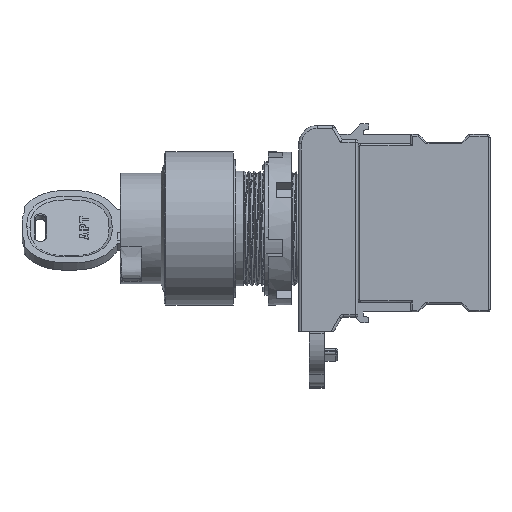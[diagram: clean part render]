
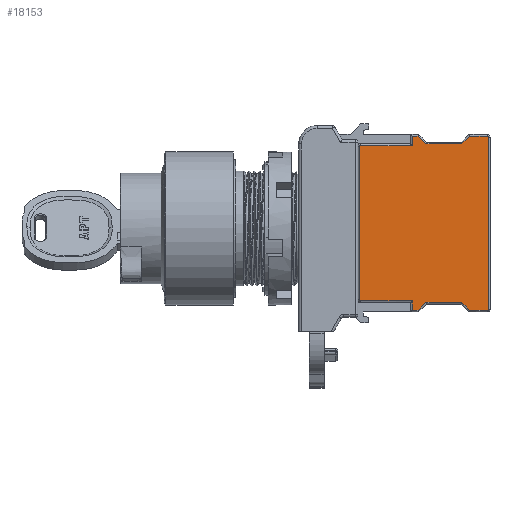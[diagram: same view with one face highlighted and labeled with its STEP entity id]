
A CAD part, left-side view. The second image highlights one B-rep face of the part: STEP entity #18153.
In plain terms, the highlighted planar face has unit normal (-1, 0, 0).
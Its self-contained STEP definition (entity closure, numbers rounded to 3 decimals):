
#16013=FACE_OUTER_BOUND('',#23656,.T.);
#18153=ADVANCED_FACE('',(#16013),#20035,.T.);
#20035=PLANE('',#57016);
#21981=CIRCLE('',#57012,0.2);
#21982=CIRCLE('',#57013,0.2);
#21983=CIRCLE('',#57014,0.2);
#21984=CIRCLE('',#57015,0.2);
#23656=EDGE_LOOP('',(#29920,#29921,#29922,#29923,#29924,#29925,#29926,#29927,
#29928,#29929,#29930,#29931,#29932,#29933,#29934,#29935,#29936,#29937,#29938,
#29939));
#29920=ORIENTED_EDGE('',*,*,#43477,.T.);
#29921=ORIENTED_EDGE('',*,*,#43478,.T.);
#29922=ORIENTED_EDGE('',*,*,#43479,.T.);
#29923=ORIENTED_EDGE('',*,*,#43480,.T.);
#29924=ORIENTED_EDGE('',*,*,#42914,.T.);
#29925=ORIENTED_EDGE('',*,*,#43476,.T.);
#29926=ORIENTED_EDGE('',*,*,#43481,.T.);
#29927=ORIENTED_EDGE('',*,*,#43482,.T.);
#29928=ORIENTED_EDGE('',*,*,#43483,.T.);
#29929=ORIENTED_EDGE('',*,*,#43484,.T.);
#29930=ORIENTED_EDGE('',*,*,#43485,.T.);
#29931=ORIENTED_EDGE('',*,*,#43486,.T.);
#29932=ORIENTED_EDGE('',*,*,#43487,.T.);
#29933=ORIENTED_EDGE('',*,*,#43488,.T.);
#29934=ORIENTED_EDGE('',*,*,#43489,.T.);
#29935=ORIENTED_EDGE('',*,*,#43490,.T.);
#29936=ORIENTED_EDGE('',*,*,#43491,.T.);
#29937=ORIENTED_EDGE('',*,*,#43492,.T.);
#29938=ORIENTED_EDGE('',*,*,#43493,.T.);
#29939=ORIENTED_EDGE('',*,*,#43494,.T.);
#38410=VERTEX_POINT('',#86145);
#38411=VERTEX_POINT('',#86147);
#38755=VERTEX_POINT('',#87736);
#38756=VERTEX_POINT('',#87755);
#38757=VERTEX_POINT('',#87756);
#38758=VERTEX_POINT('',#87758);
#38759=VERTEX_POINT('',#87760);
#38760=VERTEX_POINT('',#87763);
#38761=VERTEX_POINT('',#87765);
#38762=VERTEX_POINT('',#87767);
#38763=VERTEX_POINT('',#87769);
#38764=VERTEX_POINT('',#87771);
#38765=VERTEX_POINT('',#87773);
#38766=VERTEX_POINT('',#87775);
#38767=VERTEX_POINT('',#87777);
#38768=VERTEX_POINT('',#87779);
#38769=VERTEX_POINT('',#87781);
#38770=VERTEX_POINT('',#87783);
#38771=VERTEX_POINT('',#87785);
#38772=VERTEX_POINT('',#87787);
#42914=EDGE_CURVE('',#38411,#38410,#48192,.T.);
#43476=EDGE_CURVE('',#38410,#38755,#21981,.T.);
#43477=EDGE_CURVE('',#38756,#38757,#48651,.T.);
#43478=EDGE_CURVE('',#38757,#38758,#48652,.T.);
#43479=EDGE_CURVE('',#38758,#38759,#48653,.T.);
#43480=EDGE_CURVE('',#38759,#38411,#21982,.T.);
#43481=EDGE_CURVE('',#38755,#38760,#48654,.T.);
#43482=EDGE_CURVE('',#38760,#38761,#48655,.T.);
#43483=EDGE_CURVE('',#38761,#38762,#48656,.T.);
#43484=EDGE_CURVE('',#38762,#38763,#48657,.T.);
#43485=EDGE_CURVE('',#38763,#38764,#48658,.T.);
#43486=EDGE_CURVE('',#38764,#38765,#48659,.T.);
#43487=EDGE_CURVE('',#38765,#38766,#48660,.T.);
#43488=EDGE_CURVE('',#38766,#38767,#21983,.T.);
#43489=EDGE_CURVE('',#38767,#38768,#48661,.T.);
#43490=EDGE_CURVE('',#38768,#38769,#21984,.T.);
#43491=EDGE_CURVE('',#38769,#38770,#48662,.T.);
#43492=EDGE_CURVE('',#38770,#38771,#48663,.T.);
#43493=EDGE_CURVE('',#38771,#38772,#48664,.T.);
#43494=EDGE_CURVE('',#38772,#38756,#48665,.T.);
#48192=LINE('',#86146,#52703);
#48651=LINE('',#87754,#53162);
#48652=LINE('',#87757,#53163);
#48653=LINE('',#87759,#53164);
#48654=LINE('',#87762,#53165);
#48655=LINE('',#87764,#53166);
#48656=LINE('',#87766,#53167);
#48657=LINE('',#87768,#53168);
#48658=LINE('',#87770,#53169);
#48659=LINE('',#87772,#53170);
#48660=LINE('',#87774,#53171);
#48661=LINE('',#87778,#53172);
#48662=LINE('',#87782,#53173);
#48663=LINE('',#87784,#53174);
#48664=LINE('',#87786,#53175);
#48665=LINE('',#87788,#53176);
#52703=VECTOR('',#61989,1.);
#53162=VECTOR('',#62970,1.);
#53163=VECTOR('',#62971,1.);
#53164=VECTOR('',#62972,1.);
#53165=VECTOR('',#62975,1.);
#53166=VECTOR('',#62976,1.);
#53167=VECTOR('',#62977,1.);
#53168=VECTOR('',#62978,1.);
#53169=VECTOR('',#62979,1.);
#53170=VECTOR('',#62980,1.);
#53171=VECTOR('',#62981,1.);
#53172=VECTOR('',#62984,1.);
#53173=VECTOR('',#62987,1.);
#53174=VECTOR('',#62988,1.);
#53175=VECTOR('',#62989,1.);
#53176=VECTOR('',#62990,1.);
#57012=AXIS2_PLACEMENT_3D('',#87737,#62968,#62969);
#57013=AXIS2_PLACEMENT_3D('',#87761,#62973,#62974);
#57014=AXIS2_PLACEMENT_3D('',#87776,#62982,#62983);
#57015=AXIS2_PLACEMENT_3D('',#87780,#62985,#62986);
#57016=AXIS2_PLACEMENT_3D('',#87789,#62991,#62992);
#61989=DIRECTION('',(0.,0.,-1.));
#62968=DIRECTION('',(-1.,0.,0.));
#62969=DIRECTION('',(0.,1.,0.));
#62970=DIRECTION('',(0.,1.,0.));
#62971=DIRECTION('',(0.,0.,-1.));
#62972=DIRECTION('',(0.,1.,0.));
#62973=DIRECTION('',(-1.,0.,0.));
#62974=DIRECTION('',(0.,1.,0.));
#62975=DIRECTION('',(0.,-1.,0.));
#62976=DIRECTION('',(0.,0.,-1.));
#62977=DIRECTION('',(0.,-1.,0.));
#62978=DIRECTION('',(0.,-0.707,0.707));
#62979=DIRECTION('',(0.,-1.,0.));
#62980=DIRECTION('',(0.,-0.707,-0.707));
#62981=DIRECTION('',(0.,-1.,0.));
#62982=DIRECTION('',(-1.,0.,0.));
#62983=DIRECTION('',(0.,1.,0.));
#62984=DIRECTION('',(0.,0.,1.));
#62985=DIRECTION('',(-1.,0.,0.));
#62986=DIRECTION('',(0.,1.,0.));
#62987=DIRECTION('',(0.,1.,0.));
#62988=DIRECTION('',(0.,0.707,-0.707));
#62989=DIRECTION('',(0.,1.,0.));
#62990=DIRECTION('',(0.,0.707,0.707));
#62991=DIRECTION('',(-1.,0.,0.));
#62992=DIRECTION('',(0.,1.,0.));
#86145=CARTESIAN_POINT('',(60.,-20.328,0.927));
#86146=CARTESIAN_POINT('',(60.,-20.328,7.777));
#86147=CARTESIAN_POINT('',(60.,-20.328,29.927));
#87736=CARTESIAN_POINT('',(60.,-20.528,0.727));
#87737=CARTESIAN_POINT('',(60.,-20.528,0.927));
#87754=CARTESIAN_POINT('',(60.,-30.028,31.927));
#87755=CARTESIAN_POINT('',(60.,-31.404,31.927));
#87756=CARTESIAN_POINT('',(60.,-30.328,31.927));
#87757=CARTESIAN_POINT('',(60.,-30.328,30.427));
#87758=CARTESIAN_POINT('',(60.,-30.328,30.127));
#87759=CARTESIAN_POINT('',(60.,-32.528,30.127));
#87760=CARTESIAN_POINT('',(60.,-20.528,30.127));
#87761=CARTESIAN_POINT('',(60.,-20.528,29.927));
#87762=CARTESIAN_POINT('',(60.,-32.528,0.727));
#87763=CARTESIAN_POINT('',(60.,-30.328,0.727));
#87764=CARTESIAN_POINT('',(60.,-30.328,-1.373));
#87765=CARTESIAN_POINT('',(60.,-30.328,-1.073));
#87766=CARTESIAN_POINT('',(60.,-31.528,-1.073));
#87767=CARTESIAN_POINT('',(60.,-31.404,-1.073));
#87768=CARTESIAN_POINT('',(60.,-36.391,3.914));
#87769=CARTESIAN_POINT('',(60.,-32.904,0.427));
#87770=CARTESIAN_POINT('',(60.,-32.528,0.427));
#87771=CARTESIAN_POINT('',(60.,-39.652,0.427));
#87772=CARTESIAN_POINT('',(60.,-32.415,7.664));
#87773=CARTESIAN_POINT('',(60.,-41.152,-1.073));
#87774=CARTESIAN_POINT('',(60.,-32.528,-1.073));
#87775=CARTESIAN_POINT('',(60.,-44.528,-1.073));
#87776=CARTESIAN_POINT('',(60.,-44.528,-0.873));
#87777=CARTESIAN_POINT('',(60.,-44.728,-0.873));
#87778=CARTESIAN_POINT('',(60.,-44.728,7.777));
#87779=CARTESIAN_POINT('',(60.,-44.728,31.727));
#87780=CARTESIAN_POINT('',(60.,-44.528,31.727));
#87781=CARTESIAN_POINT('',(60.,-44.528,31.927));
#87782=CARTESIAN_POINT('',(60.,-32.528,31.927));
#87783=CARTESIAN_POINT('',(60.,-41.152,31.927));
#87784=CARTESIAN_POINT('',(60.,-24.765,15.54));
#87785=CARTESIAN_POINT('',(60.,-39.652,30.427));
#87786=CARTESIAN_POINT('',(60.,-32.528,30.427));
#87787=CARTESIAN_POINT('',(60.,-32.904,30.427));
#87788=CARTESIAN_POINT('',(60.,-44.041,19.29));
#87789=CARTESIAN_POINT('',(60.,-32.528,7.777));
